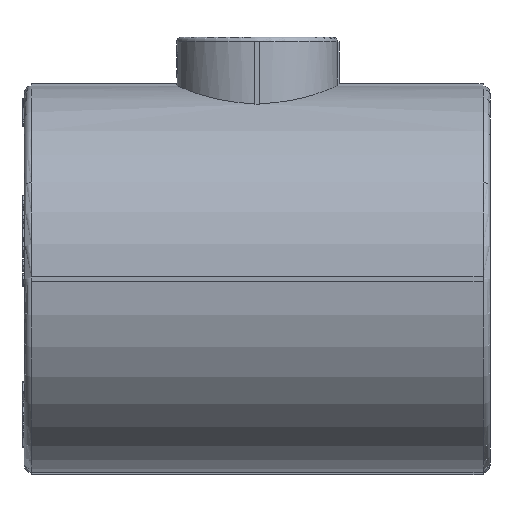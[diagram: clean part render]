
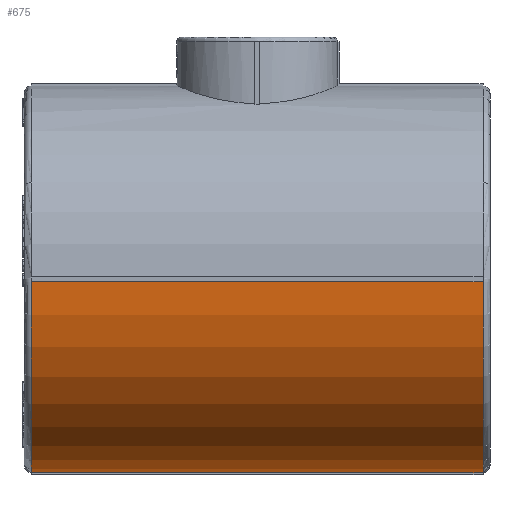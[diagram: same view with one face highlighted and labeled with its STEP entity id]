
A CAD part, left-side view. The second image highlights one B-rep face of the part: STEP entity #675.
In plain terms, the highlighted cylindrical face has radius 41.5 mm (diameter 83 mm), a partial arc.
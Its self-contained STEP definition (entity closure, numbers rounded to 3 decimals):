
#675=ADVANCED_FACE('',(#5235),#5237,.T.);
#5235=FACE_BOUND('',#5236,.T.);
#5236=EDGE_LOOP('',(#13272,#13273,#13274,#13275));
#5237=CYLINDRICAL_SURFACE('',#5238,41.5);
#5238=AXIS2_PLACEMENT_3D('',#5239,#5240,#5241);
#5239=CARTESIAN_POINT('',(0.,-50.,0.));
#5240=DIRECTION('',(0.,1.,0.));
#5241=DIRECTION('',(-1.,0.,0.));
#13272=ORIENTED_EDGE('',*,*,#18755,.F.);
#13273=ORIENTED_EDGE('',*,*,#18756,.T.);
#13274=ORIENTED_EDGE('',*,*,#18757,.F.);
#13275=ORIENTED_EDGE('',*,*,#18718,.F.);
#18718=EDGE_CURVE('',#23058,#23060,#23061,.T.);
#18755=EDGE_CURVE('',#23127,#23058,#23128,.T.);
#18756=EDGE_CURVE('',#23127,#23129,#23130,.T.);
#18757=EDGE_CURVE('',#23060,#23129,#23131,.F.);
#23058=VERTEX_POINT('',#31843);
#23060=VERTEX_POINT('',#31848);
#23061=CIRCLE('',#31849,41.5);
#23127=VERTEX_POINT('',#32220);
#23128=LINE('',#32221,#32222);
#23129=VERTEX_POINT('',#32224);
#23130=CIRCLE('',#32225,41.5);
#23131=LINE('',#32229,#32230);
#31843=CARTESIAN_POINT('',(-0.5,48.5,-41.497));
#31848=CARTESIAN_POINT('',(-41.497,48.5,-0.5));
#31849=AXIS2_PLACEMENT_3D('',#31850,#31851,#31852);
#31850=CARTESIAN_POINT('',(0.,48.5,0.));
#31851=DIRECTION('',(0.,1.,0.));
#31852=DIRECTION('',(-0.012,0.,-1.));
#32220=CARTESIAN_POINT('',(-0.5,-48.5,-41.497));
#32221=CARTESIAN_POINT('',(-0.5,-48.5,-41.497));
#32222=VECTOR('',#32223,1.);
#32223=DIRECTION('',(0.,1.,0.));
#32224=CARTESIAN_POINT('',(-41.497,-48.5,-0.5));
#32225=AXIS2_PLACEMENT_3D('',#32226,#32227,#32228);
#32226=CARTESIAN_POINT('',(0.,-48.5,0.));
#32227=DIRECTION('',(0.,1.,0.));
#32228=DIRECTION('',(-0.012,0.,-1.));
#32229=CARTESIAN_POINT('',(-41.497,-48.5,-0.5));
#32230=VECTOR('',#32231,1.);
#32231=DIRECTION('',(0.,1.,0.));
